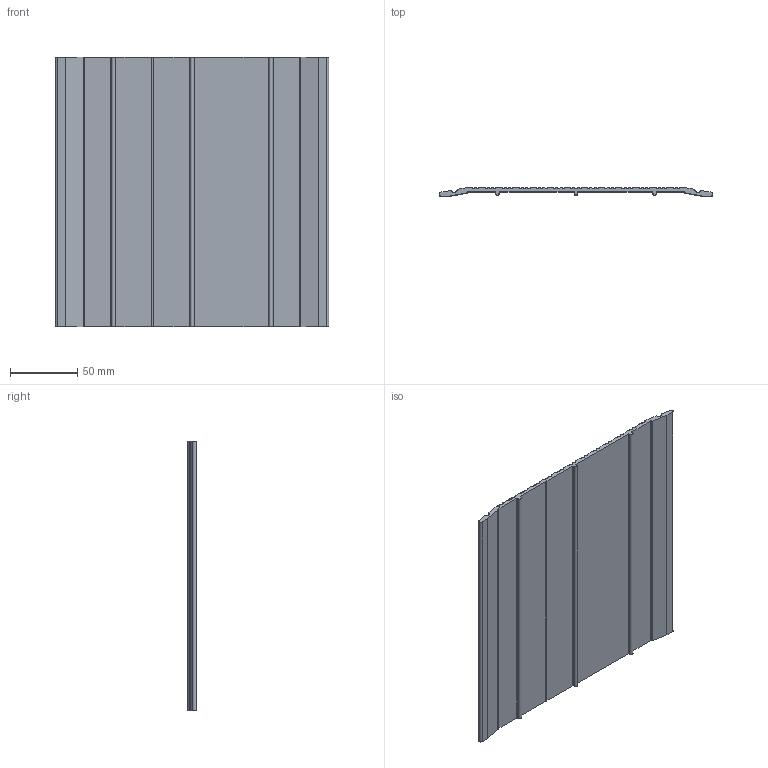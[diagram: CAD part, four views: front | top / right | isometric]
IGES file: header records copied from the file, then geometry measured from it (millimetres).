
Global section: file name: No Iges File Name specified; native system: Autodesk Inventor 2012; preprocessor: AutoDesk Inventor Iges Exporter R2012; author: anna.b; date: 20130614.101015; units: millimetre
Bounding box: 203.2 x 6.35 x 200 mm (x, y, z)
Volume: 121407.4 mm3; surface area: 92064.9 mm2
Topology: 1 solids, 1 shells, 199 faces, 591 edges, 394 vertices
Faces by surface type: cylinder 89, plane 61, revolution 49
